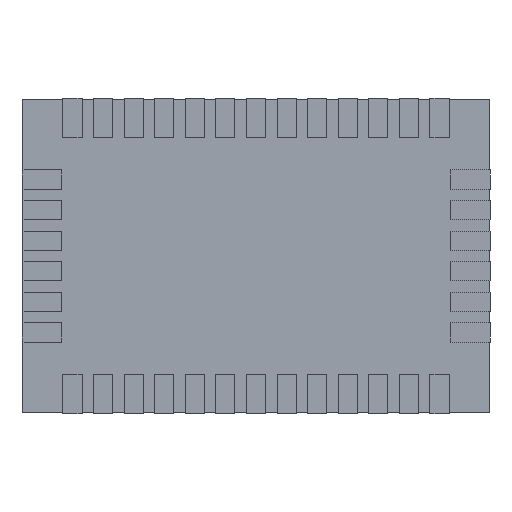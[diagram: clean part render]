
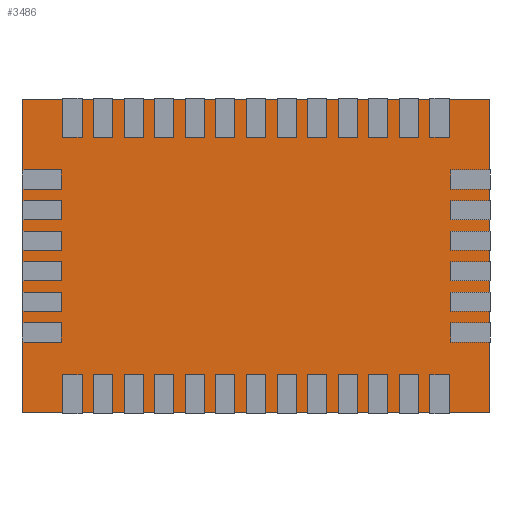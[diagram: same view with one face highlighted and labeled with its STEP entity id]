
A CAD part, front view. The second image highlights one B-rep face of the part: STEP entity #3486.
In plain terms, the highlighted planar face has unit normal (0, -1, 0).
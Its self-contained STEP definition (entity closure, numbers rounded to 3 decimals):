
#69=PLANE('',#3788);
#345=FACE_OUTER_BOUND('',#582,.T.);
#582=EDGE_LOOP('',(#2562,#2563,#2564,#2565));
#812=LINE('',#4987,#1281);
#816=LINE('',#4995,#1285);
#819=LINE('',#5001,#1288);
#822=LINE('',#5006,#1291);
#1281=VECTOR('',#4035,10.);
#1285=VECTOR('',#4041,10.);
#1288=VECTOR('',#4046,10.);
#1291=VECTOR('',#4051,10.);
#1753=VERTEX_POINT('',#4985);
#1754=VERTEX_POINT('',#4986);
#1757=VERTEX_POINT('',#4994);
#1759=VERTEX_POINT('',#5000);
#2068=EDGE_CURVE('',#1753,#1754,#812,.T.);
#2072=EDGE_CURVE('',#1757,#1753,#816,.T.);
#2075=EDGE_CURVE('',#1759,#1757,#819,.T.);
#2078=EDGE_CURVE('',#1754,#1759,#822,.T.);
#2562=ORIENTED_EDGE('',*,*,#2078,.F.);
#2563=ORIENTED_EDGE('',*,*,#2068,.F.);
#2564=ORIENTED_EDGE('',*,*,#2072,.F.);
#2565=ORIENTED_EDGE('',*,*,#2075,.F.);
#3486=ADVANCED_FACE('',(#345),#69,.F.);
#3788=AXIS2_PLACEMENT_3D('',#5009,#4055,#4056);
#4035=DIRECTION('',(-1.,0.,0.));
#4041=DIRECTION('',(0.,0.,-1.));
#4046=DIRECTION('',(1.,0.,0.));
#4051=DIRECTION('',(0.,0.,1.));
#4055=DIRECTION('center_axis',(0.,1.,0.));
#4056=DIRECTION('ref_axis',(1.,0.,0.));
#4985=CARTESIAN_POINT('',(3.05,0.,-2.05));
#4986=CARTESIAN_POINT('',(-3.05,0.,-2.05));
#4987=CARTESIAN_POINT('',(3.05,0.,-2.05));
#4994=CARTESIAN_POINT('',(3.05,0.,2.05));
#4995=CARTESIAN_POINT('',(3.05,0.,2.05));
#5000=CARTESIAN_POINT('',(-3.05,0.,2.05));
#5001=CARTESIAN_POINT('',(-3.05,0.,2.05));
#5006=CARTESIAN_POINT('',(-3.05,0.,-2.05));
#5009=CARTESIAN_POINT('Origin',(0.,0.,0.));
